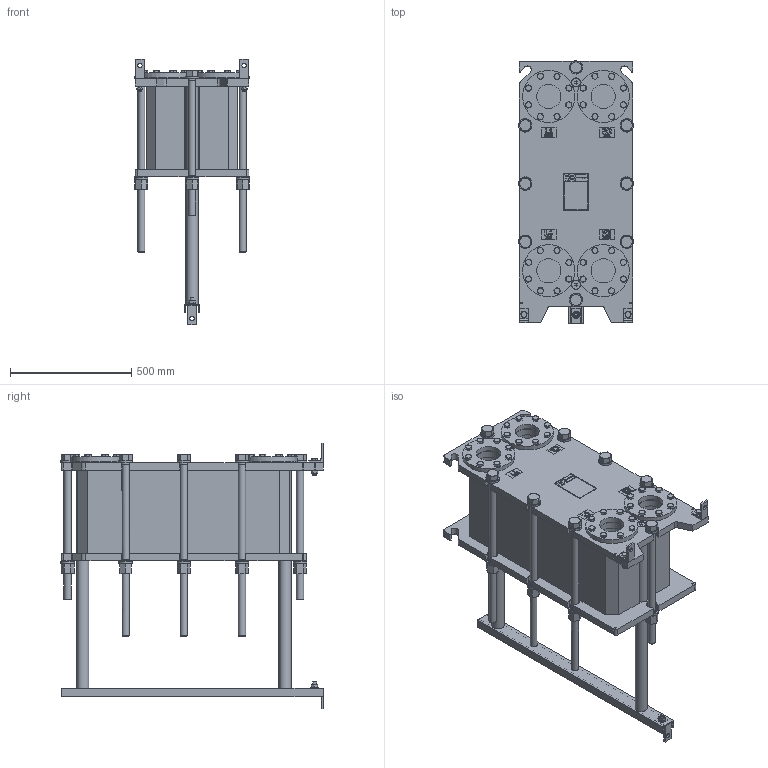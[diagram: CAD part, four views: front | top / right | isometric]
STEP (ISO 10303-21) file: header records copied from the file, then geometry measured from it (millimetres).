
FILE_DESCRIPTION (( 'STEP AP214' ), '1' );
FILE_NAME ('ÏÒ SX100 ðåä.4 ê ñèãìà 71...133.STEP', '2021-04-12T22:42:09', ( '' ), ( '' ), 'SwSTEP 2.0', 'SolidWorks 2018', '' );
FILE_SCHEMA (( 'AUTOMOTIVE_DESIGN' ));
Length unit declared in the file: millimetre
Products named in the file (3): ÏÒ SX100 ðåä.4 ê ñèãìà1; ÏÒ SX100 ðåä.4 ê ñèãìà 71...133; ÏÒ SX100 ðåä.4 ê ñèãìà2 71...133
Assembly tree (2 placements, depth 2):
  ÏÒ SX100 ðåä.4 ê ñèãìà 71...133
    ÏÒ SX100 ðåä.4 ê ñèãìà2 71...133
    ÏÒ SX100 ðåä.4 ê ñèãìà1
Bounding box: 472.88 x 1081.48 x 1094 mm (x, y, z)
Volume: 138742615.4 mm3; surface area: 5787041 mm2
Topology: 47 solids, 53 shells, 2534 faces, 5972 edges, 3772 vertices
Faces by surface type: plane 1252, cone 661, cylinder 307, bspline 275, torus 39
Full cylindrical faces by diameter (mm): 15 x32, 16 x38, 17 x3, 18 x39, 20 x8, 22 x4, 23 x2, 30 x19, 32 x16, 35.38 x2, 37 x4, 41 x16, 50 x2, 55 x16, 100 x4, 100.01 x4, 102 x8, 130 x4, 215 x4
Entity records: 106394 total; most frequent: CARTESIAN_POINT 25539, ORIENTED_EDGE 10810, DIRECTION 9801, EDGE_CURVE 5405, VERTEX_POINT 3680, AXIS2_PLACEMENT_3D 3582, EDGE_LOOP 3397, FACE_OUTER_BOUND 2798
